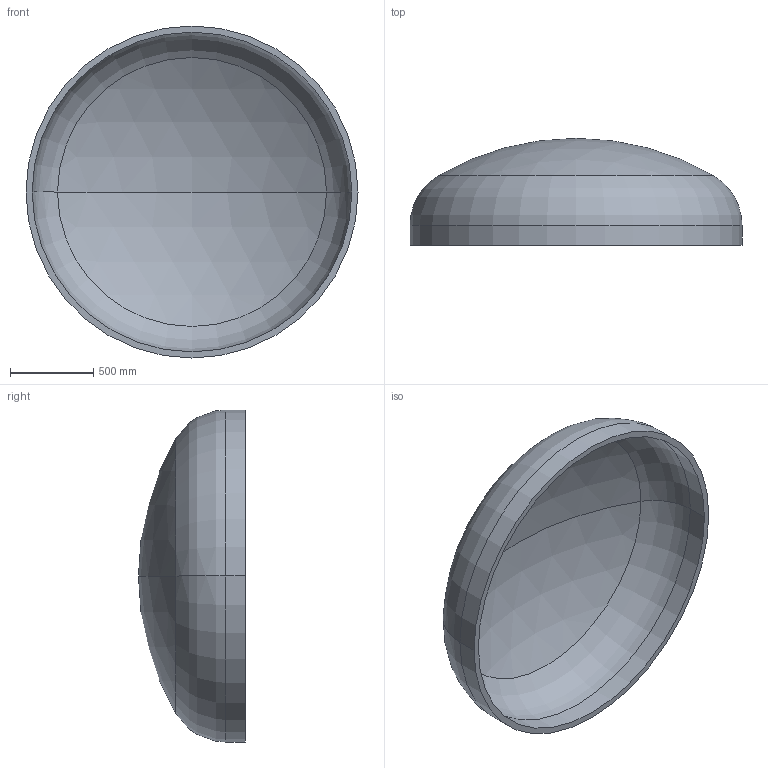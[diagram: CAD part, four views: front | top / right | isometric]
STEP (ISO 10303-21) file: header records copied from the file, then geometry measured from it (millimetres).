
FILE_DESCRIPTION (( 'STEP AP203' ), '1' );
FILE_NAME ('DIN 28013 Korbbogenform_-_Boden DIN 28013 - 2000 x 120 - I - s=37.step', '2016-07-01T13:49:56', ( '' ), ( '' ), 'SwSTEP 2.0', 'SolidWorks 2013', '' );
FILE_SCHEMA (( 'CONFIG_CONTROL_DESIGN' ));
Length unit declared in the file: millimetre
Products named in the file (1): DIN 28013 Korbbogenform_-_Boden DIN 28013 - 2000 x 120 - I - s=37
Bounding box: 2000 x 644.48 x 2000 mm (x, y, z)
Volume: 184695210.2 mm3; surface area: 10214565.9 mm2
Topology: 1 solids, 1 shells, 13 faces, 24 edges, 14 vertices
Faces by surface type: torus 4, cylinder 4, sphere 4, plane 1
Entity records: 407 total; most frequent: DIRECTION 72, CARTESIAN_POINT 52, ORIENTED_EDGE 48, AXIS2_PLACEMENT_3D 34, EDGE_CURVE 24, CIRCLE 20, VERTEX_POINT 14, EDGE_LOOP 14
